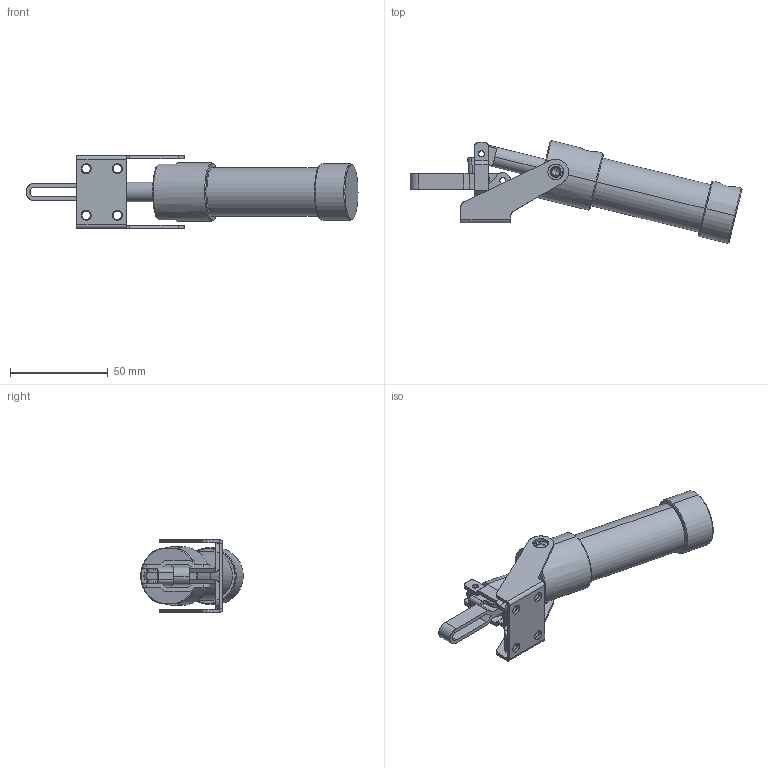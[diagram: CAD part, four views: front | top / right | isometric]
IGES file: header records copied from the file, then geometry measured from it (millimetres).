
Start section: SolidWorks IGES file using analytic representation for surfaces
Global section: file name: D:\GH Files\GH-SW-FILES\GH-A\10101A\GH-10101A\10101A.IGS; native system: SolidWorks 2006 by SolidWorks Corporation; preprocessor: SolidWorks 2006 by SolidWorks Corporation; author: Administrator; date: 060526.085855; units: millimetre
Bounding box: 169.57 x 52.41 x 37.2 mm (x, y, z)
Surface area: 36824.2 mm2 (no closed solid volume)
Topology: 0 solids, 0 shells, 278 faces, 5090 edges, 5085 vertices
Faces by surface type: revolution 160, bspline 118
